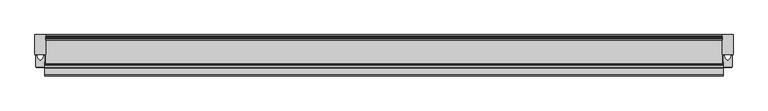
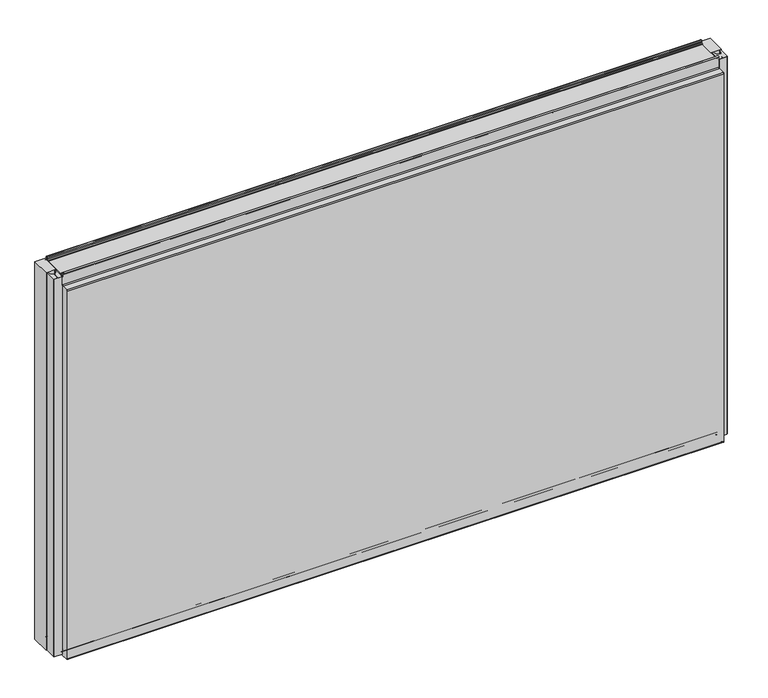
"""IFC4 building model written with IfcOpenShell, lengths in millimetres: plate geometry, Fronttop : Fronttop 120/1200."""

from ifc_helpers import new_model, si_unit, point, frame, frame_2d, origin, origin_with_axes, place, context, project, spatial, polyline, circle_curve, trimmed, segment, composite_curve, outline, extrude, source, transform, mapped, element, save
from ifc_brep_helpers import plane_surface, cylinder_surface, revolved_surface, advanced_brep


def plate_d0c9d429(model_context):
    return source(origin(), model_context, "Body", "SolidModel", [
        advanced_brep(
        [(-986.5, -94.0, 1208.0), (-986.5, -94.0, 1200.0), (-986.5, -95.0, 1200.0), (-986.5, -95.0, 1208.0), (-986.5, -90.0, 1208.0), (-986.5, -90.0, 1204.0), (-986.5, -87.0, 1201.0), (-986.5, -85.0, 1201.0), (-986.5, -85.0, 1200.0), (-986.5, -87.0, 1200.0), (-986.5, -91.0, 1204.0), (-986.5, -91.0, 1208.0), (986.5, -95.0, 1208.0), (986.5, -95.0, 1200.0), (986.5, -94.0, 1200.0), (986.5, -94.0, 1208.0), (986.5, -91.0, 1208.0), (986.5, -91.0, 1204.0), (986.5, -87.0, 1200.0), (986.5, -85.0, 1200.0), (986.5, -85.0, 1201.0), (986.5, -87.0, 1201.0), (986.5, -90.0, 1204.0), (986.5, -90.0, 1208.0), (-986.5, -87.0, 2.0), (-986.5, -85.0, 2.0), (986.5, -85.0, 2.0), (986.5, -87.0, 2.0), (986.5, -89.0, 4.0), (-986.5, -89.0, 4.0), (986.5, -89.0, 8.0), (-986.5, -89.0, 8.0), (986.5, -96.0, 8.0), (-986.5, -96.0, 8.0), (986.5, -96.0, 0.0), (-986.5, -96.0, 0.0), (986.5, -99.0, -3.0), (-986.5, -99.0, -3.0), (986.5, -95.0, -3.0), (987.5, -95.0, -3.0), (987.5, -117.0, -3.0), (986.5, -117.0, -3.0), (-986.5, -117.0, -3.0), (-987.5, -117.0, -3.0), (-987.5, -95.0, -3.0), (-986.5, -95.0, -3.0), (986.5, -120.0, 0.0), (-986.5, -120.0, 0.0), (987.5, -120.0, 0.0), (987.5, -120.0, 1169.0), (986.5, -120.0, 1169.0), (-986.5, -120.0, 1169.0), (-987.5, -120.0, 1169.0), (-987.5, -120.0, 0.0), (986.5, -117.0, 1172.0), (-986.5, -117.0, 1172.0), (987.5, -117.0, 1172.0), (987.5, -98.0, 1172.0), (986.5, -98.0, 1172.0), (-986.5, -98.0, 1172.0), (-987.5, -98.0, 1172.0), (-987.5, -117.0, 1172.0), (986.5, -95.0, 1175.0), (-986.5, -95.0, 1175.0), (987.5, -95.0, 1175.0), (987.5, -95.0, 1200.0), (-987.5, -95.0, 1200.0), (-987.5, -95.0, 1175.0), (986.5, -94.0, 1175.0), (-986.5, -94.0, 1175.0), (986.5, -98.0, 1171.0), (-986.5, -98.0, 1171.0), (986.5, -117.0, 1171.0), (-986.5, -117.0, 1171.0), (986.5, -119.0, 1169.0), (-986.5, -119.0, 1169.0), (986.5, -119.0, 0.0), (-986.5, -119.0, 0.0), (986.5, -117.0, -2.0), (-986.5, -117.0, -2.0), (986.5, -99.0, -2.0), (-986.5, -99.0, -2.0), (986.5, -97.0, 0.0), (-986.5, -97.0, 0.0), (986.5, -97.0, 8.0), (-986.5, -97.0, 8.0), (986.5, -88.0, 8.0), (-986.5, -88.0, 8.0), (986.5, -88.0, 4.0), (-986.5, -88.0, 4.0), (986.5, -87.0, 3.0), (-986.5, -87.0, 3.0), (986.5, -85.0, 3.0), (-986.5, -85.0, 3.0), (987.5, -95.0, 0.0), (987.5, -80.0, 0.0), (987.5, -80.0, 1200.0), (986.5, -80.0, 1200.0), (986.5, -80.0, 0.0), (986.5, -95.0, 0.0), (-987.5, -80.0, 1200.0), (-987.5, -80.0, 0.0), (-987.5, -95.0, 0.0), (-986.5, -80.0, 1200.0), (-986.5, -95.0, 0.0), (-986.5, -80.0, 0.0)],
        [
            (0, 1),
            (1, 2),
            (2, 3),
            (3, 4, circle_curve(frame((-986.5, -92.5, 1208.0), z_axis=(-1.0, 0.0, 0.0), x_axis=(0.0, 1.0, 0.0)), 2.5)),
            (4, 5),
            (5, 6, circle_curve(frame((-986.5, -87.0, 1204.0), z_axis=(1.0, 0.0, 0.0), x_axis=(0.0, 1.0, 0.0)), 3.0)),
            (6, 7),
            (7, 8),
            (8, 9),
            (9, 10, circle_curve(frame((-986.5, -87.0, 1204.0), z_axis=(-1.0, 0.0, 0.0), x_axis=(0.0, 1.0, 0.0)), 4.0)),
            (10, 11),
            (11, 0, circle_curve(frame((-986.5, -92.5, 1208.0), z_axis=(1.0, 0.0, 0.0), x_axis=(0.0, 1.0, 0.0)), 1.5)),
            (12, 13),
            (13, 14),
            (14, 15),
            (15, 16, circle_curve(frame((986.5, -92.5, 1208.0), z_axis=(-1.0, 0.0, 0.0), x_axis=(0.0, 1.0, 0.0)), 1.5)),
            (16, 17),
            (17, 18, circle_curve(frame((986.5, -87.0, 1204.0), z_axis=(1.0, 0.0, 0.0), x_axis=(0.0, 1.0, 0.0)), 4.0)),
            (18, 19),
            (19, 20),
            (20, 21),
            (21, 22, circle_curve(frame((986.5, -87.0, 1204.0), z_axis=(-1.0, 0.0, 0.0), x_axis=(0.0, 1.0, 0.0)), 3.0)),
            (22, 23),
            (23, 12, circle_curve(frame((986.5, -92.5, 1208.0), z_axis=(1.0, 0.0, 0.0), x_axis=(0.0, 1.0, 0.0)), 2.5)),
            (24, 25),
            (25, 26),
            (26, 27),
            (27, 24),
            (27, 28, circle_curve(frame((986.5, -87.0, 4.0), z_axis=(-1.0, 0.0, 0.0), x_axis=(0.0, 1.0, 0.0)), 2.0)),
            (28, 29),
            (29, 24, circle_curve(frame((-986.5, -87.0, 4.0), z_axis=(1.0, 0.0, 0.0), x_axis=(0.0, 1.0, 0.0)), 2.0)),
            (28, 30),
            (30, 31),
            (31, 29),
            (30, 32, circle_curve(frame((986.5, -92.5, 8.0), z_axis=(1.0, 0.0, 0.0), x_axis=(0.0, 1.0, 0.0)), 3.5)),
            (32, 33),
            (33, 31, circle_curve(frame((-986.5, -92.5, 8.0), z_axis=(-1.0, 0.0, 0.0), x_axis=(0.0, 1.0, 0.0)), 3.5)),
            (32, 34),
            (34, 35),
            (35, 33),
            (34, 36, circle_curve(frame((986.5, -99.0, 0.0), z_axis=(-1.0, 0.0, 0.0), x_axis=(0.0, 1.0, 0.0)), 3.0)),
            (36, 37),
            (37, 35, circle_curve(frame((-986.5, -99.0, 0.0), z_axis=(1.0, 0.0, 0.0), x_axis=(0.0, 1.0, 0.0)), 3.0)),
            (36, 38),
            (38, 39),
            (39, 40),
            (40, 41),
            (41, 42),
            (42, 43),
            (43, 44),
            (44, 45),
            (45, 37),
            (41, 46, circle_curve(frame((986.5, -117.0, 0.0), z_axis=(-1.0, 0.0, 0.0), x_axis=(0.0, 1.0, 0.0)), 3.0)),
            (46, 47),
            (47, 42, circle_curve(frame((-986.5, -117.0, 0.0), z_axis=(1.0, 0.0, 0.0), x_axis=(0.0, 1.0, 0.0)), 3.0)),
            (46, 48),
            (48, 49),
            (49, 50),
            (50, 51),
            (51, 52),
            (52, 53),
            (53, 47),
            (50, 54, circle_curve(frame((986.5, -117.0, 1169.0), z_axis=(-1.0, 0.0, 0.0), x_axis=(0.0, 1.0, 0.0)), 3.0)),
            (54, 55),
            (55, 51, circle_curve(frame((-986.5, -117.0, 1169.0), z_axis=(1.0, 0.0, 0.0), x_axis=(0.0, 1.0, 0.0)), 3.0)),
            (54, 56),
            (56, 57),
            (57, 58),
            (58, 59),
            (59, 60),
            (60, 61),
            (61, 55),
            (58, 62, circle_curve(frame((986.5, -98.0, 1175.0), z_axis=(1.0, 0.0, 0.0), x_axis=(0.0, 1.0, 0.0)), 3.0)),
            (62, 63),
            (63, 59, circle_curve(frame((-986.5, -98.0, 1175.0), z_axis=(-1.0, 0.0, 0.0), x_axis=(0.0, 1.0, 0.0)), 3.0)),
            (62, 64),
            (64, 65),
            (65, 13),
            (12, 3),
            (2, 66),
            (66, 67),
            (67, 63),
            (23, 4),
            (22, 5),
            (21, 6),
            (20, 7),
            (19, 8),
            (19, 18),
            (18, 9),
            (9, 8),
            (17, 10),
            (16, 11),
            (15, 0),
            (14, 68),
            (68, 69),
            (69, 1),
            (68, 70, circle_curve(frame((986.5, -98.0, 1175.0), z_axis=(-1.0, 0.0, 0.0), x_axis=(0.0, 1.0, 0.0)), 4.0)),
            (70, 71),
            (71, 69, circle_curve(frame((-986.5, -98.0, 1175.0), z_axis=(1.0, 0.0, 0.0), x_axis=(0.0, 1.0, 0.0)), 4.0)),
            (70, 72),
            (72, 73),
            (73, 71),
            (72, 74, circle_curve(frame((986.5, -117.0, 1169.0), z_axis=(1.0, 0.0, 0.0), x_axis=(0.0, 1.0, 0.0)), 2.0)),
            (74, 75),
            (75, 73, circle_curve(frame((-986.5, -117.0, 1169.0), z_axis=(-1.0, 0.0, 0.0), x_axis=(0.0, 1.0, 0.0)), 2.0)),
            (74, 76),
            (76, 77),
            (77, 75),
            (76, 78, circle_curve(frame((986.5, -117.0, 0.0), z_axis=(1.0, 0.0, 0.0), x_axis=(0.0, 1.0, 0.0)), 2.0)),
            (78, 79),
            (79, 77, circle_curve(frame((-986.5, -117.0, 0.0), z_axis=(-1.0, 0.0, 0.0), x_axis=(0.0, 1.0, 0.0)), 2.0)),
            (78, 80),
            (80, 81),
            (81, 79),
            (80, 82, circle_curve(frame((986.5, -99.0, 0.0), z_axis=(1.0, 0.0, 0.0), x_axis=(0.0, 1.0, 0.0)), 2.0)),
            (82, 83),
            (83, 81, circle_curve(frame((-986.5, -99.0, 0.0), z_axis=(-1.0, 0.0, 0.0), x_axis=(0.0, 1.0, 0.0)), 2.0)),
            (82, 84),
            (84, 85),
            (85, 83),
            (84, 86, circle_curve(frame((986.5, -92.5, 8.0), z_axis=(-1.0, 0.0, 0.0), x_axis=(0.0, 1.0, 0.0)), 4.5)),
            (86, 87),
            (87, 85, circle_curve(frame((-986.5, -92.5, 8.0), z_axis=(1.0, 0.0, 0.0), x_axis=(0.0, 1.0, 0.0)), 4.5)),
            (86, 88),
            (88, 89),
            (89, 87),
            (88, 90, circle_curve(frame((986.5, -87.0, 4.0), z_axis=(1.0, 0.0, 0.0), x_axis=(0.0, 1.0, 0.0)), 1.0)),
            (90, 91),
            (91, 89, circle_curve(frame((-986.5, -87.0, 4.0), z_axis=(-1.0, 0.0, 0.0), x_axis=(0.0, 1.0, 0.0)), 1.0)),
            (90, 92),
            (92, 93),
            (93, 91),
            (25, 93),
            (92, 26),
            (64, 57, circle_curve(frame((987.5, -98.0, 1175.0), z_axis=(-1.0, 0.0, 0.0), x_axis=(0.0, -1.0, 0.0)), 3.0)),
            (56, 49, circle_curve(frame((987.5, -117.0, 1169.0), z_axis=(1.0, 0.0, 0.0), x_axis=(0.0, -1.0, 0.0)), 3.0)),
            (48, 40, circle_curve(frame((987.5, -117.0, 0.0), z_axis=(1.0, 0.0, 0.0), x_axis=(0.0, -1.0, 0.0)), 3.0)),
            (39, 94),
            (94, 95),
            (95, 96),
            (96, 65),
            (14, 18),
            (19, 97),
            (97, 98),
            (98, 99),
            (99, 38),
            (96, 97),
            (95, 98),
            (94, 99),
            (66, 100),
            (100, 101),
            (101, 102),
            (102, 44),
            (43, 53, circle_curve(frame((-987.5, -117.0, 0.0), z_axis=(-1.0, 0.0, 0.0), x_axis=(0.0, -1.0, 0.0)), 3.0)),
            (52, 61, circle_curve(frame((-987.5, -117.0, 1169.0), z_axis=(-1.0, 0.0, 0.0), x_axis=(0.0, -1.0, 0.0)), 3.0)),
            (60, 67, circle_curve(frame((-987.5, -98.0, 1175.0), z_axis=(1.0, 0.0, 0.0), x_axis=(0.0, -1.0, 0.0)), 3.0)),
            (103, 8),
            (9, 1),
            (45, 104),
            (104, 105),
            (105, 103),
            (103, 100),
            (105, 101),
            (104, 102),
        ],
        [
            plane_surface(frame((-986.5, 0.0, 0.0), z_axis=(-1.0, 0.0, 0.0), x_axis=(0.0, 0.0, 1.0))),
            plane_surface(frame((986.5, 0.0, 0.0), z_axis=(1.0, 0.0, 0.0), x_axis=(0.0, 0.0, 1.0))),
            plane_surface(frame((-986.5, -87.0, 2.0), z_axis=(0.0, 0.0, -1.0), x_axis=(1.0, 0.0, 0.0))),
            cylinder_surface(frame((-986.5, -87.0, 4.0), z_axis=(-1.0, 0.0, 0.0), x_axis=(0.0, 1.0, 0.0)), 2.0),
            plane_surface(frame((-986.5, -89.0, 8.0), z_axis=(0.0, -1.0, 0.0), x_axis=(1.0, 0.0, 0.0))),
            revolved_surface(polyline([(986.5, -89.0, 8.0), (-986.5, -89.0, 8.0)]), (-986.5, -92.5, 8.0), (1.0, 0.0, 0.0)),
            plane_surface(frame((-986.5, -96.0, 0.0), z_axis=(0.0, 1.0, 0.0), x_axis=(1.0, 0.0, 0.0))),
            cylinder_surface(frame((-986.5, -99.0, 0.0), z_axis=(-1.0, 0.0, 0.0), x_axis=(0.0, 1.0, 0.0)), 3.0),
            plane_surface(frame((-986.5, -117.0, -3.0), z_axis=(0.0, 0.0, -1.0), x_axis=(1.0, 0.0, 0.0))),
            cylinder_surface(frame((-986.5, -117.0, 0.0), z_axis=(-1.0, 0.0, 0.0), x_axis=(0.0, 1.0, 0.0)), 3.0),
            plane_surface(frame((-986.5, -120.0, 1169.0), z_axis=(0.0, -1.0, 0.0), x_axis=(1.0, 0.0, 0.0))),
            cylinder_surface(frame((-986.5, -117.0, 1169.0), z_axis=(-1.0, 0.0, 0.0), x_axis=(0.0, 1.0, 0.0)), 3.0),
            plane_surface(frame((-986.5, -98.0, 1172.0), z_axis=(0.0, 0.0, 1.0), x_axis=(1.0, 0.0, 0.0))),
            revolved_surface(polyline([(986.5, -95.0, 1175.0), (-986.5, -95.0, 1175.0)]), (-986.5, -98.0, 1175.0), (1.0, 0.0, 0.0)),
            plane_surface(frame((-986.5, -95.0, 1208.0), z_axis=(0.0, -1.0, 0.0), x_axis=(1.0, 0.0, 0.0))),
            cylinder_surface(frame((-986.5, -92.5, 1208.0), z_axis=(-1.0, 0.0, 0.0), x_axis=(0.0, 1.0, 0.0)), 2.5),
            plane_surface(frame((-986.5, -90.0, 1204.0), z_axis=(0.0, 1.0, 0.0), x_axis=(1.0, 0.0, 0.0))),
            revolved_surface(polyline([(986.5, -84.0, 1204.0), (-986.5, -84.0, 1204.0)]), (-986.5, -87.0, 1204.0), (1.0, 0.0, 0.0)),
            plane_surface(frame((-986.5, -85.0, 1201.0), z_axis=(0.0, 0.0, 1.0), x_axis=(1.0, 0.0, 0.0))),
            plane_surface(frame((-986.5, -85.0, 1200.0), z_axis=(0.0, 1.0, 0.0), x_axis=(1.0, 0.0, 0.0))),
            plane_surface(frame((-986.5, -87.0, 1200.0), z_axis=(0.0, 0.0, -1.0), x_axis=(1.0, 0.0, 0.0))),
            cylinder_surface(frame((-986.5, -87.0, 1204.0), z_axis=(-1.0, 0.0, 0.0), x_axis=(0.0, 1.0, 0.0)), 4.0),
            plane_surface(frame((-986.5, -91.0, 1208.0), z_axis=(0.0, -1.0, 0.0), x_axis=(1.0, 0.0, 0.0))),
            revolved_surface(polyline([(986.5, -91.0, 1208.0), (-986.5, -91.0, 1208.0)]), (-986.5, -92.5, 1208.0), (1.0, 0.0, 0.0)),
            plane_surface(frame((-986.5, -94.0, 1175.0), z_axis=(0.0, 1.0, 0.0), x_axis=(1.0, 0.0, 0.0))),
            cylinder_surface(frame((-986.5, -98.0, 1175.0), z_axis=(-1.0, 0.0, 0.0), x_axis=(0.0, 1.0, 0.0)), 4.0),
            plane_surface(frame((-986.5, -117.0, 1171.0), z_axis=(0.0, 0.0, -1.0), x_axis=(1.0, 0.0, 0.0))),
            revolved_surface(polyline([(986.5, -115.0, 1169.0), (-986.5, -115.0, 1169.0)]), (-986.5, -117.0, 1169.0), (1.0, 0.0, 0.0)),
            plane_surface(frame((-986.5, -119.0, 0.0), z_axis=(0.0, 1.0, 0.0), x_axis=(1.0, 0.0, 0.0))),
            revolved_surface(polyline([(986.5, -115.0, 0.0), (-986.5, -115.0, 0.0)]), (-986.5, -117.0, 0.0), (1.0, 0.0, 0.0)),
            plane_surface(frame((-986.5, -99.0, -2.0), z_axis=(0.0, 0.0, 1.0), x_axis=(1.0, 0.0, 0.0))),
            revolved_surface(polyline([(986.5, -97.0, 0.0), (-986.5, -97.0, 0.0)]), (-986.5, -99.0, 0.0), (1.0, 0.0, 0.0)),
            plane_surface(frame((-986.5, -97.0, 8.0), z_axis=(0.0, -1.0, 0.0), x_axis=(1.0, 0.0, 0.0))),
            cylinder_surface(frame((-986.5, -92.5, 8.0), z_axis=(-1.0, 0.0, 0.0), x_axis=(0.0, 1.0, 0.0)), 4.5),
            plane_surface(frame((-986.5, -88.0, 4.0), z_axis=(0.0, 1.0, 0.0), x_axis=(1.0, 0.0, 0.0))),
            revolved_surface(polyline([(986.5, -86.0, 4.0), (-986.5, -86.0, 4.0)]), (-986.5, -87.0, 4.0), (1.0, 0.0, 0.0)),
            plane_surface(frame((-986.5, -85.0, 3.0), z_axis=(0.0, 0.0, 1.0), x_axis=(1.0, 0.0, 0.0))),
            plane_surface(frame((-986.5, -85.0, 2.0), z_axis=(0.0, 1.0, 0.0), x_axis=(1.0, 0.0, 0.0))),
            plane_surface(frame((987.5, -95.0, 1200.0), z_axis=(1.0, 0.0, 0.0), x_axis=(0.0, 1.0, 0.0))),
            plane_surface(frame((986.5, -95.0, 1200.0), z_axis=(-1.0, 0.0, 0.0), x_axis=(0.0, -1.0, 0.0))),
            plane_surface(frame((987.5, -95.0, 1200.0), z_axis=(0.0, 0.0, 1.0), x_axis=(-1.0, 0.0, 0.0))),
            plane_surface(frame((987.5, -80.0, 1200.0), z_axis=(0.0, 1.0, 0.0), x_axis=(-1.0, 0.0, 0.0))),
            plane_surface(frame((987.5, -80.0, 0.0), z_axis=(0.0, 0.0, -1.0), x_axis=(-1.0, 0.0, 0.0))),
            cylinder_surface(frame((986.5, -117.0, 0.0), z_axis=(1.0, 0.0, 0.0), x_axis=(0.0, -1.0, 0.0)), 3.0),
            cylinder_surface(frame((986.5, -117.0, 1169.0), z_axis=(1.0, 0.0, 0.0), x_axis=(0.0, -1.0, 0.0)), 3.0),
            revolved_surface(polyline([(986.5, -101.0, 1175.0), (987.5, -101.0, 1175.0)]), (986.5, -98.0, 1175.0), (-1.0, 0.0, 0.0)),
            plane_surface(frame((-987.5, -95.0, 1200.0), z_axis=(-1.0, 0.0, 0.0), x_axis=(0.0, -1.0, 0.0))),
            plane_surface(frame((-986.5, -95.0, 1200.0), z_axis=(1.0, 0.0, 0.0), x_axis=(0.0, 1.0, 0.0))),
            plane_surface(frame((-986.5, -95.0, 1200.0), z_axis=(0.0, 0.0, 1.0), x_axis=(-1.0, 0.0, 0.0))),
            plane_surface(frame((-986.5, -80.0, 1200.0), z_axis=(0.0, 1.0, 0.0), x_axis=(-1.0, 0.0, 0.0))),
            plane_surface(frame((-986.5, -80.0, 0.0), z_axis=(0.0, 0.0, -1.0), x_axis=(-1.0, 0.0, 0.0))),
            cylinder_surface(frame((-987.5, -117.0, 0.0), z_axis=(1.0, 0.0, 0.0), x_axis=(0.0, -1.0, 0.0)), 3.0),
            cylinder_surface(frame((-987.5, -117.0, 1169.0), z_axis=(1.0, 0.0, 0.0), x_axis=(0.0, -1.0, 0.0)), 3.0),
            revolved_surface(polyline([(-987.5, -101.0, 1175.0), (-986.5, -101.0, 1175.0)]), (-987.5, -98.0, 1175.0), (-1.0, 0.0, 0.0)),
            plane_surface(frame((987.5, -95.0, 0.0), z_axis=(0.0, 1.0, 0.0), x_axis=(-1.0, 0.0, 0.0))),
            plane_surface(frame((-986.5, -95.0, 0.0), z_axis=(0.0, 1.0, 0.0), x_axis=(-1.0, 0.0, 0.0))),
        ],
        [
            (0, [[1, 2, 3, 4, 5, 6, 7, 8, 9, 10, 11, 12]]),
            (1, [[13, 14, 15, 16, 17, 18, 19, 20, 21, 22, 23, 24]]),
            (2, [[25, 26, 27, 28]]),
            (3, [[29, 30, 31, -28]]),
            (4, [[32, 33, 34, -30]]),
            (5, [[35, 36, 37, -33]]),
            (6, [[38, 39, 40, -36]]),
            (7, [[41, 42, 43, -39]]),
            (8, [[44, 45, 46, 47, 48, 49, 50, 51, 52, -42]]),
            (9, [[53, 54, 55, -48]]),
            (10, [[56, 57, 58, 59, 60, 61, 62, -54]]),
            (11, [[63, 64, 65, -59]]),
            (12, [[66, 67, 68, 69, 70, 71, 72, -64]]),
            (13, [[73, 74, 75, -69]]),
            (14, [[76, 77, 78, -13, 79, -3, 80, 81, 82, -74]]),
            (15, [[-79, -24, 83, -4]]),
            (16, [[-83, -23, 84, -5]]),
            (17, [[-84, -22, 85, -6]]),
            (18, [[-85, -21, 86, -7]]),
            (19, [[-86, -20, 87, -8]]),
            (20, [[88, 89, 90, -87]]),
            (21, [[-89, -18, 91, -10]]),
            (22, [[-91, -17, 92, -11]]),
            (23, [[-92, -16, 93, -12]]),
            (24, [[-15, 94, 95, 96, -1, -93]]),
            (25, [[97, 98, 99, -95]]),
            (26, [[100, 101, 102, -98]]),
            (27, [[103, 104, 105, -101]]),
            (28, [[106, 107, 108, -104]]),
            (29, [[109, 110, 111, -107]]),
            (30, [[112, 113, 114, -110]]),
            (31, [[115, 116, 117, -113]]),
            (32, [[118, 119, 120, -116]]),
            (33, [[121, 122, 123, -119]]),
            (34, [[124, 125, 126, -122]]),
            (35, [[127, 128, 129, -125]]),
            (36, [[130, 131, 132, -128]]),
            (37, [[133, -131, 134, -26]]),
            (38, [[-77, 135, -67, 136, -57, 137, -46, 138, 139, 140, 141]]),
            (39, [[-44, -41, -38, -35, -32, -29, -27, -134, -130, -127, -124, -121, -118, -115, -112, -109, -106, -103, -100, -97, -94, 142, -88, 143, 144, 145, 146]]),
            (40, [[147, -143, -19, -142, -14, -78, -141]]),
            (41, [[148, -144, -147, -140]]),
            (42, [[149, -145, -148, -139]]),
            (43, [[-56, -53, -47, -137]]),
            (44, [[-66, -63, -58, -136]]),
            (45, [[-76, -73, -68, -135]]),
            (46, [[150, 151, 152, 153, -50, 154, -61, 155, -71, 156, -81]]),
            (47, [[157, -90, 158, -96, -99, -102, -105, -108, -111, -114, -117, -120, -123, -126, -129, -132, -133, -25, -31, -34, -37, -40, -43, -52, 159, 160, 161]]),
            (48, [[-80, -2, -158, -9, -157, 162, -150]]),
            (49, [[-162, -161, 163, -151]]),
            (50, [[-163, -160, 164, -152]]),
            (51, [[-49, -55, -62, -154]]),
            (52, [[-60, -65, -72, -155]]),
            (53, [[-70, -75, -82, -156]]),
            (54, [[-45, -146, -149, -138]]),
            (55, [[-164, -159, -51, -153]]),
        ],
    ),
        extrude(outline(composite_curve([segment(polyline([(-1012.5001545, -93.5), (-1012.5001545, -60.0), (-1009.75, -60.0), (-1009.75, -62.5)]), True, "CONTINUOUS"), segment(trimmed(circle_curve(frame_2d((-991.9661979, -59.3183984)), 18.0661619), [point((-1009.75, -62.5))], [point((-1000.0, -75.5))], True, "CARTESIAN"), True, "CONTINUOUS"), segment(trimmed(circle_curve(frame_2d((-1008.0338021, -59.3183984)), 18.0661619), [point((-1000.0, -75.5))], [point((-990.25, -62.5))], True, "CARTESIAN"), True, "CONTINUOUS"), segment(polyline([(-990.25, -62.5), (-990.25, -60.0), (-987.4998455, -60.0), (-987.4998455, -93.5), (-999.25, -93.5), (-999.25, -77.5), (-1000.75, -77.5), (-1000.75, -93.5), (-1012.5001545, -93.5)]), True, "CONTINUOUS")], self_intersect=False)), origin_with_axes(), (0.0, 0.0, 1.0), 1200.0),
        extrude(outline(polyline([(-984.5, 0.0), (-984.5, -58.0), (-1015.5, -58.0), (-1015.5, 0.0), (-984.5, 0.0)])), origin_with_axes(), (0.0, 0.0, 1.0), 1200.0),
        extrude(outline(polyline([(-1011.5051154, -95.0), (-1011.5051154, -93.5), (-1000.65, -93.5), (-1000.65, -79.0759655), (-999.3497504, -79.0759655), (-999.3497504, -93.5), (-988.4948846, -93.5), (-988.4948846, -95.0), (-1011.5051154, -95.0)])), origin_with_axes(), (0.0, 0.0, 1.0), 1200.0),
        extrude(outline(composite_curve([segment(polyline([(987.4998455, -93.5), (987.4998455, -60.0), (990.25, -60.0), (990.25, -62.5)]), True, "CONTINUOUS"), segment(trimmed(circle_curve(frame_2d((1008.0338021, -59.3183984)), 18.0661619), [point((990.25, -62.5))], [point((1000.0, -75.5))], True, "CARTESIAN"), True, "CONTINUOUS"), segment(trimmed(circle_curve(frame_2d((991.9661979, -59.3183984)), 18.0661619), [point((1000.0, -75.5))], [point((1009.75, -62.5))], True, "CARTESIAN"), True, "CONTINUOUS"), segment(polyline([(1009.75, -62.5), (1009.75, -60.0), (1012.5001545, -60.0), (1012.5001545, -93.5), (1000.75, -93.5), (1000.75, -77.5), (999.25, -77.5), (999.25, -93.5), (987.4998455, -93.5)]), True, "CONTINUOUS")], self_intersect=False)), origin_with_axes(), (0.0, 0.0, 1.0), 1200.0),
        extrude(outline(polyline([(1015.5, 0.0), (1015.5, -58.0), (984.5, -58.0), (984.5, 0.0), (1015.5, 0.0)])), origin_with_axes(), (0.0, 0.0, 1.0), 1200.0),
        extrude(outline(polyline([(988.4948846, -95.0), (988.4948846, -93.5), (999.35, -93.5), (999.35, -79.0759655), (1000.6502496, -79.0759655), (1000.6502496, -93.5), (1011.5051154, -93.5), (1011.5051154, -95.0), (988.4948846, -95.0)])), origin_with_axes(), (0.0, 0.0, 1.0), 1200.0),
        advanced_brep(
        [(-984.5, -13.0, 1201.0), (-984.5, -10.0, 1204.0), (-984.5, -10.0, 1208.0), (-984.5, -5.0, 1208.0), (-984.5, -5.0, 1199.5), (-984.5, -2.2239212, 1197.0152907), (-984.5, 0.0, 1195.0), (-984.5, 0.0, -0.5), (-984.5, -4.0, -0.5), (-984.5, -4.0, 8.0), (-984.5, -11.0, 8.0), (-984.5, -11.0, 4.0), (-984.5, -13.0, 2.0), (-984.5, -15.0, 2.0), (-984.5, -15.0, 3.0), (-984.5, -13.0, 3.0), (-984.5, -12.0, 4.0), (-984.5, -12.0, 8.0), (-984.5, -3.0, 8.0), (-984.5, -3.0, -0.5), (-984.5, -1.0, -0.5), (-984.5, -1.0, 1195.0), (-984.5, -2.1104315, 1195.9938837), (-984.5, -6.0, 1199.5), (-984.5, -6.0, 1208.0), (-984.5, -9.0, 1208.0), (-984.5, -9.0, 1204.0), (-984.5, -13.0, 1200.0), (-984.5, -15.0, 1200.0), (-984.5, -15.0, 1201.0), (984.5, -13.0, 1201.0), (984.5, -15.0, 1201.0), (984.5, -15.0, 1200.0), (984.5, -13.0, 1200.0), (984.5, -9.0, 1204.0), (984.5, -9.0, 1208.0), (984.5, -6.0, 1208.0), (984.5, -6.0, 1199.5), (984.5, -2.1134897, 1196.0214069), (984.5, -1.0, 1195.0), (984.5, -1.0, -0.5), (984.5, -3.0, -0.5), (984.5, -3.0, 8.0), (984.5, -12.0, 8.0), (984.5, -12.0, 4.0), (984.5, -13.0, 3.0), (984.5, -15.0, 3.0), (984.5, -15.0, 2.0), (984.5, -13.0, 2.0), (984.5, -11.0, 4.0), (984.5, -11.0, 8.0), (984.5, -4.0, 8.0), (984.5, -4.0, -0.5), (984.5, 0.0, -0.5), (984.5, 0.0, 1195.0), (984.5, -2.220863, 1196.9877675), (984.5, -5.0, 1199.5), (984.5, -5.0, 1208.0), (984.5, -10.0, 1208.0), (984.5, -10.0, 1204.0)],
        [
            (0, 1, circle_curve(frame((-984.5, -13.0, 1204.0), z_axis=(1.0, 0.0, 0.0), x_axis=(0.0, 1.0, 0.0)), 3.0)),
            (1, 2),
            (2, 3, circle_curve(frame((-984.5, -7.5, 1208.0), z_axis=(-1.0, 0.0, 0.0), x_axis=(0.0, 1.0, 0.0)), 2.5)),
            (3, 4),
            (4, 5, circle_curve(frame((-984.5, -2.5, 1199.5), z_axis=(1.0, 0.0, 0.0), x_axis=(0.0, 1.0, 0.0)), 2.5)),
            (5, 6, circle_curve(frame((-984.5, -2.0, 1195.0), z_axis=(-1.0, 0.0, 0.0), x_axis=(0.0, 1.0, 0.0)), 2.0)),
            (6, 7),
            (7, 8, circle_curve(frame((-984.5, -2.0, -0.5), z_axis=(-1.0, 0.0, 0.0), x_axis=(0.0, 1.0, 0.0)), 2.0)),
            (8, 9),
            (9, 10, circle_curve(frame((-984.5, -7.5, 8.0), z_axis=(1.0, 0.0, 0.0), x_axis=(0.0, 1.0, 0.0)), 3.5)),
            (10, 11),
            (11, 12, circle_curve(frame((-984.5, -13.0, 4.0), z_axis=(-1.0, 0.0, 0.0), x_axis=(0.0, 1.0, 0.0)), 2.0)),
            (12, 13),
            (13, 14),
            (14, 15),
            (15, 16, circle_curve(frame((-984.5, -13.0, 4.0), z_axis=(1.0, 0.0, 0.0), x_axis=(0.0, 1.0, 0.0)), 1.0)),
            (16, 17),
            (17, 18, circle_curve(frame((-984.5, -7.5, 8.0), z_axis=(-1.0, 0.0, 0.0), x_axis=(0.0, 1.0, 0.0)), 4.5)),
            (18, 19),
            (19, 20, circle_curve(frame((-984.5, -2.0, -0.5), z_axis=(1.0, 0.0, 0.0), x_axis=(0.0, 1.0, 0.0)), 1.0)),
            (20, 21),
            (21, 22, circle_curve(frame((-984.5, -2.0, 1195.0), z_axis=(1.0, 0.0, 0.0), x_axis=(0.0, 1.0, 0.0)), 1.0)),
            (22, 23, circle_curve(frame((-984.5, -2.5, 1199.5), z_axis=(-1.0, 0.0, 0.0), x_axis=(0.0, 1.0, 0.0)), 3.5)),
            (23, 24),
            (24, 25, circle_curve(frame((-984.5, -7.5, 1208.0), z_axis=(1.0, 0.0, 0.0), x_axis=(0.0, 1.0, 0.0)), 1.5)),
            (25, 26),
            (26, 27, circle_curve(frame((-984.5, -13.0, 1204.0), z_axis=(-1.0, 0.0, 0.0), x_axis=(0.0, 1.0, 0.0)), 4.0)),
            (27, 28),
            (28, 29),
            (29, 0),
            (30, 31),
            (31, 32),
            (32, 33),
            (33, 34, circle_curve(frame((984.5, -13.0, 1204.0), z_axis=(1.0, 0.0, 0.0), x_axis=(0.0, 1.0, 0.0)), 4.0)),
            (34, 35),
            (35, 36, circle_curve(frame((984.5, -7.5, 1208.0), z_axis=(-1.0, 0.0, 0.0), x_axis=(0.0, 1.0, 0.0)), 1.5)),
            (36, 37),
            (37, 38, circle_curve(frame((984.5, -2.5, 1199.5), z_axis=(1.0, 0.0, 0.0), x_axis=(0.0, 1.0, 0.0)), 3.5)),
            (38, 39, circle_curve(frame((984.5, -2.0, 1195.0), z_axis=(-1.0, 0.0, 0.0), x_axis=(0.0, 1.0, 0.0)), 1.0)),
            (39, 40),
            (40, 41, circle_curve(frame((984.5, -2.0, -0.5), z_axis=(-1.0, 0.0, 0.0), x_axis=(0.0, 1.0, 0.0)), 1.0)),
            (41, 42),
            (42, 43, circle_curve(frame((984.5, -7.5, 8.0), z_axis=(1.0, 0.0, 0.0), x_axis=(0.0, 1.0, 0.0)), 4.5)),
            (43, 44),
            (44, 45, circle_curve(frame((984.5, -13.0, 4.0), z_axis=(-1.0, 0.0, 0.0), x_axis=(0.0, 1.0, 0.0)), 1.0)),
            (45, 46),
            (46, 47),
            (47, 48),
            (48, 49, circle_curve(frame((984.5, -13.0, 4.0), z_axis=(1.0, 0.0, 0.0), x_axis=(0.0, 1.0, 0.0)), 2.0)),
            (49, 50),
            (50, 51, circle_curve(frame((984.5, -7.5, 8.0), z_axis=(-1.0, 0.0, 0.0), x_axis=(0.0, 1.0, 0.0)), 3.5)),
            (51, 52),
            (52, 53, circle_curve(frame((984.5, -2.0, -0.5), z_axis=(1.0, 0.0, 0.0), x_axis=(0.0, 1.0, 0.0)), 2.0)),
            (53, 54),
            (54, 55, circle_curve(frame((984.5, -2.0, 1195.0), z_axis=(1.0, 0.0, 0.0), x_axis=(0.0, 1.0, 0.0)), 2.0)),
            (55, 56, circle_curve(frame((984.5, -2.5, 1199.5), z_axis=(-1.0, 0.0, 0.0), x_axis=(0.0, 1.0, 0.0)), 2.5)),
            (56, 57),
            (57, 58, circle_curve(frame((984.5, -7.5, 1208.0), z_axis=(1.0, 0.0, 0.0), x_axis=(0.0, 1.0, 0.0)), 2.5)),
            (58, 59),
            (59, 30, circle_curve(frame((984.5, -13.0, 1204.0), z_axis=(-1.0, 0.0, 0.0), x_axis=(0.0, 1.0, 0.0)), 3.0)),
            (29, 31),
            (30, 0),
            (28, 32),
            (27, 33),
            (26, 34),
            (25, 35),
            (24, 36),
            (23, 37),
            (22, 38),
            (21, 39),
            (20, 40),
            (19, 41),
            (18, 42),
            (17, 43),
            (16, 44),
            (15, 45),
            (14, 46),
            (13, 47),
            (12, 48),
            (11, 49),
            (10, 50),
            (9, 51),
            (8, 52),
            (7, 53),
            (6, 54),
            (5, 55),
            (4, 56),
            (3, 57),
            (2, 58),
            (1, 59),
        ],
        [
            plane_surface(frame((-984.5, 0.0, 0.0), z_axis=(-1.0, 0.0, 0.0), x_axis=(0.0, 0.0, 1.0))),
            plane_surface(frame((984.5, 0.0, 0.0), z_axis=(1.0, 0.0, 0.0), x_axis=(0.0, 0.0, 1.0))),
            plane_surface(frame((-984.5, -13.0, 1201.0), z_axis=(0.0, 0.0, 1.0), x_axis=(1.0, 0.0, 0.0))),
            plane_surface(frame((-984.5, -15.0, 1201.0), z_axis=(0.0, -1.0, 0.0), x_axis=(1.0, 0.0, 0.0))),
            plane_surface(frame((-984.5, -15.0, 1200.0), z_axis=(0.0, 0.0, -1.0), x_axis=(1.0, 0.0, 0.0))),
            cylinder_surface(frame((-984.5, -13.0, 1204.0), z_axis=(-1.0, 0.0, 0.0), x_axis=(0.0, 1.0, 0.0)), 4.0),
            plane_surface(frame((-984.5, -9.0, 1204.0), z_axis=(0.0, 1.0, 0.0), x_axis=(1.0, 0.0, 0.0))),
            revolved_surface(polyline([(984.5, -6.0, 1208.0), (-984.5, -6.0, 1208.0)]), (-984.5, -7.5, 1208.0), (1.0, 0.0, 0.0)),
            plane_surface(frame((-984.5, -6.0, 1208.0), z_axis=(0.0, -1.0, 0.0), x_axis=(1.0, 0.0, 0.0))),
            cylinder_surface(frame((-984.5, -2.5, 1199.5), z_axis=(-1.0, 0.0, 0.0), x_axis=(0.0, 1.0, 0.0)), 3.5),
            revolved_surface(polyline([(984.5, -1.0, 1195.0), (-984.5, -1.0, 1195.0)]), (-984.5, -2.0, 1195.0), (1.0, 0.0, 0.0)),
            plane_surface(frame((-984.5, -1.0, 1195.0), z_axis=(0.0, -1.0, 0.0), x_axis=(1.0, 0.0, 0.0))),
            revolved_surface(polyline([(984.5, -1.0, -0.5), (-984.5, -1.0, -0.5)]), (-984.5, -2.0, -0.5), (1.0, 0.0, 0.0)),
            plane_surface(frame((-984.5, -3.0, -0.5), z_axis=(0.0, 1.0, 0.0), x_axis=(1.0, 0.0, 0.0))),
            cylinder_surface(frame((-984.5, -7.5, 8.0), z_axis=(-1.0, 0.0, 0.0), x_axis=(0.0, 1.0, 0.0)), 4.5),
            plane_surface(frame((-984.5, -12.0, 8.0), z_axis=(0.0, -1.0, 0.0), x_axis=(1.0, 0.0, 0.0))),
            revolved_surface(polyline([(984.5, -12.0, 4.0), (-984.5, -12.0, 4.0)]), (-984.5, -13.0, 4.0), (1.0, 0.0, 0.0)),
            plane_surface(frame((-984.5, -13.0, 3.0), z_axis=(0.0, 0.0, 1.0), x_axis=(1.0, 0.0, 0.0))),
            plane_surface(frame((-984.5, -15.0, 3.0), z_axis=(0.0, -1.0, 0.0), x_axis=(1.0, 0.0, 0.0))),
            plane_surface(frame((-984.5, -15.0, 2.0), z_axis=(0.0, 0.0, -1.0), x_axis=(1.0, 0.0, 0.0))),
            cylinder_surface(frame((-984.5, -13.0, 4.0), z_axis=(-1.0, 0.0, 0.0), x_axis=(0.0, 1.0, 0.0)), 2.0),
            plane_surface(frame((-984.5, -11.0, 4.0), z_axis=(0.0, 1.0, 0.0), x_axis=(1.0, 0.0, 0.0))),
            revolved_surface(polyline([(984.5, -4.0, 8.0), (-984.5, -4.0, 8.0)]), (-984.5, -7.5, 8.0), (1.0, 0.0, 0.0)),
            plane_surface(frame((-984.5, -4.0, 8.0), z_axis=(0.0, -1.0, 0.0), x_axis=(1.0, 0.0, 0.0))),
            cylinder_surface(frame((-984.5, -2.0, -0.5), z_axis=(-1.0, 0.0, 0.0), x_axis=(0.0, 1.0, 0.0)), 2.0),
            plane_surface(frame((-984.5, 0.0, -0.5), z_axis=(0.0, 1.0, 0.0), x_axis=(1.0, 0.0, 0.0))),
            cylinder_surface(frame((-984.5, -2.0, 1195.0), z_axis=(-1.0, 0.0, 0.0), x_axis=(0.0, 1.0, 0.0)), 2.0),
            revolved_surface(polyline([(984.5, 0.0, 1199.5), (-984.5, 0.0, 1199.5)]), (-984.5, -2.5, 1199.5), (1.0, 0.0, 0.0)),
            plane_surface(frame((-984.5, -5.0, 1199.5), z_axis=(0.0, 1.0, 0.0), x_axis=(1.0, 0.0, 0.0))),
            cylinder_surface(frame((-984.5, -7.5, 1208.0), z_axis=(-1.0, 0.0, 0.0), x_axis=(0.0, 1.0, 0.0)), 2.5),
            plane_surface(frame((-984.5, -10.0, 1208.0), z_axis=(0.0, -1.0, 0.0), x_axis=(1.0, 0.0, 0.0))),
            revolved_surface(polyline([(984.5, -10.0, 1204.0), (-984.5, -10.0, 1204.0)]), (-984.5, -13.0, 1204.0), (1.0, 0.0, 0.0)),
        ],
        [
            (0, [[1, 2, 3, 4, 5, 6, 7, 8, 9, 10, 11, 12, 13, 14, 15, 16, 17, 18, 19, 20, 21, 22, 23, 24, 25, 26, 27, 28, 29, 30]]),
            (1, [[31, 32, 33, 34, 35, 36, 37, 38, 39, 40, 41, 42, 43, 44, 45, 46, 47, 48, 49, 50, 51, 52, 53, 54, 55, 56, 57, 58, 59, 60]]),
            (2, [[61, -31, 62, -30]]),
            (3, [[63, -32, -61, -29]]),
            (4, [[64, -33, -63, -28]]),
            (5, [[65, -34, -64, -27]]),
            (6, [[66, -35, -65, -26]]),
            (7, [[67, -36, -66, -25]]),
            (8, [[68, -37, -67, -24]]),
            (9, [[69, -38, -68, -23]]),
            (10, [[70, -39, -69, -22]]),
            (11, [[71, -40, -70, -21]]),
            (12, [[72, -41, -71, -20]]),
            (13, [[73, -42, -72, -19]]),
            (14, [[74, -43, -73, -18]]),
            (15, [[75, -44, -74, -17]]),
            (16, [[76, -45, -75, -16]]),
            (17, [[77, -46, -76, -15]]),
            (18, [[78, -47, -77, -14]]),
            (19, [[79, -48, -78, -13]]),
            (20, [[80, -49, -79, -12]]),
            (21, [[81, -50, -80, -11]]),
            (22, [[82, -51, -81, -10]]),
            (23, [[83, -52, -82, -9]]),
            (24, [[84, -53, -83, -8]]),
            (25, [[85, -54, -84, -7]]),
            (26, [[86, -55, -85, -6]]),
            (27, [[87, -56, -86, -5]]),
            (28, [[88, -57, -87, -4]]),
            (29, [[89, -58, -88, -3]]),
            (30, [[90, -59, -89, -2]]),
            (31, [[-62, -60, -90, -1]]),
        ],
    ),
        extrude(outline(composite_curve([segment(polyline([(-15.0, 3.0), (-15.0, 0.0), (-85.0, 0.0), (-85.0, 3.0), (-87.0, 3.0)]), True, "CONTINUOUS"), segment(trimmed(circle_curve(frame_2d((-87.0, 4.0)), 1.0), [point((-87.0, 3.0))], [point((-88.0, 4.0))], False, "CARTESIAN"), True, "CONTINUOUS"), segment(polyline([(-88.0, 4.0), (-88.0, 8.0)]), True, "CONTINUOUS"), segment(trimmed(circle_curve(frame_2d((-92.5, 8.0)), 4.5), [point((-88.0, 8.0))], [point((-97.0, 8.0))], True, "CARTESIAN"), True, "CONTINUOUS"), segment(polyline([(-97.0, 8.0), (-97.0, 0.0)]), True, "CONTINUOUS"), segment(trimmed(circle_curve(frame_2d((-99.0, 0.0)), 2.0), [point((-97.0, 0.0))], [point((-99.0, -2.0))], False, "CARTESIAN"), True, "CONTINUOUS"), segment(polyline([(-99.0, -2.0), (-117.0, -2.0)]), True, "CONTINUOUS"), segment(trimmed(circle_curve(frame_2d((-117.0, 0.0)), 2.0), [point((-117.0, -2.0))], [point((-119.0, 0.0))], False, "CARTESIAN"), True, "CONTINUOUS"), segment(polyline([(-119.0, 0.0), (-119.0, 1169.0)]), True, "CONTINUOUS"), segment(trimmed(circle_curve(frame_2d((-117.0, 1169.0)), 2.0), [point((-119.0, 1169.0))], [point((-117.0, 1171.0))], False, "CARTESIAN"), True, "CONTINUOUS"), segment(polyline([(-117.0, 1171.0), (-98.0, 1171.0)]), True, "CONTINUOUS"), segment(trimmed(circle_curve(frame_2d((-98.0, 1175.0)), 4.0), [point((-98.0, 1171.0))], [point((-94.0, 1175.0))], True, "CARTESIAN"), True, "CONTINUOUS"), segment(polyline([(-94.0, 1175.0), (-94.0, 1208.0)]), True, "CONTINUOUS"), segment(trimmed(circle_curve(frame_2d((-92.5, 1208.0)), 1.5), [point((-94.0, 1208.0))], [point((-91.0, 1208.0))], False, "CARTESIAN"), True, "CONTINUOUS"), segment(polyline([(-91.0, 1208.0), (-91.0, 1204.0)]), True, "CONTINUOUS"), segment(trimmed(circle_curve(frame_2d((-87.0, 1204.0)), 4.0), [point((-91.0, 1204.0))], [point((-87.0, 1200.0))], True, "CARTESIAN"), True, "CONTINUOUS"), segment(polyline([(-87.0, 1200.0), (-13.0, 1200.0)]), True, "CONTINUOUS"), segment(trimmed(circle_curve(frame_2d((-13.0, 1204.0)), 4.0), [point((-13.0, 1200.0))], [point((-9.0, 1204.0))], True, "CARTESIAN"), True, "CONTINUOUS"), segment(polyline([(-9.0, 1204.0), (-9.0, 1208.0)]), True, "CONTINUOUS"), segment(trimmed(circle_curve(frame_2d((-7.5, 1208.0)), 1.5), [point((-9.0, 1208.0))], [point((-6.0, 1208.0))], False, "CARTESIAN"), True, "CONTINUOUS"), segment(polyline([(-6.0, 1208.0), (-6.0, 1199.5)]), True, "CONTINUOUS"), segment(trimmed(circle_curve(frame_2d((-2.5, 1199.5)), 3.5), [point((-6.0, 1199.5))], [point((-2.1111111, 1196.021672))], True, "CARTESIAN"), True, "CONTINUOUS"), segment(trimmed(circle_curve(frame_2d((-2.0, 1195.0278643)), 1.0), [point((-2.1111111, 1196.021672))], [point((-1.0, 1195.0278643))], False, "CARTESIAN"), True, "CONTINUOUS"), segment(polyline([(-1.0, 1195.0278643), (-1.0, -0.5)]), True, "CONTINUOUS"), segment(trimmed(circle_curve(frame_2d((-2.0, -0.5)), 1.0), [point((-1.0, -0.5))], [point((-3.0, -0.5))], False, "CARTESIAN"), True, "CONTINUOUS"), segment(polyline([(-3.0, -0.5), (-3.0, 8.0)]), True, "CONTINUOUS"), segment(trimmed(circle_curve(frame_2d((-7.5, 8.0)), 4.5), [point((-3.0, 8.0))], [point((-12.0, 8.0))], True, "CARTESIAN"), True, "CONTINUOUS"), segment(polyline([(-12.0, 8.0), (-12.0, 4.0)]), True, "CONTINUOUS"), segment(trimmed(circle_curve(frame_2d((-13.0, 4.0)), 1.0), [point((-12.0, 4.0))], [point((-13.0, 3.0))], False, "CARTESIAN"), True, "CONTINUOUS"), segment(polyline([(-13.0, 3.0), (-15.0, 3.0)]), True, "CONTINUOUS")], self_intersect=False)), frame((-984.5, 0.0, 0.0), z_axis=(1.0, 0.0, 0.0), x_axis=(0.0, 1.0, 0.0)), (0.0, 0.0, 1.0), 1969.0),
    ])


if __name__ == "__main__":
    model = new_model("IFC4")
    model_context = context("Model", 3, world=origin())
    ifc_project = project(units=[si_unit("LENGTHUNIT", "METRE", prefix="MILLI")], contexts=[model_context])
    site = spatial("IfcSite", under=ifc_project)
    building = spatial("IfcBuilding", under=site)
    placement = place(None, origin())
    plate_shape = plate_d0c9d429(model_context)
    element("IfcPlate", 1, ObjectType="Fronttop : Fronttop 120/1200", at=placement, inside=building, context=model_context, shape_type="MappedRepresentation", body=[
        mapped(plate_shape, transform((0.0, 0.0, 0.0), x_axis=(1.0, 0.0, 0.0), y_axis=(0.0, 1.0, 0.0), z_axis=(0.0, 0.0, 1.0))),
    ])
    save(model, "model.ifc")
